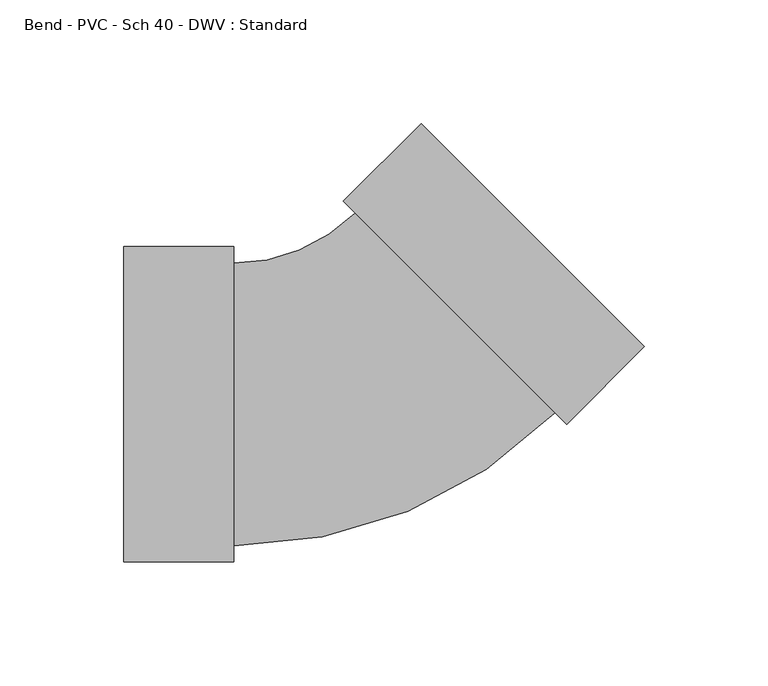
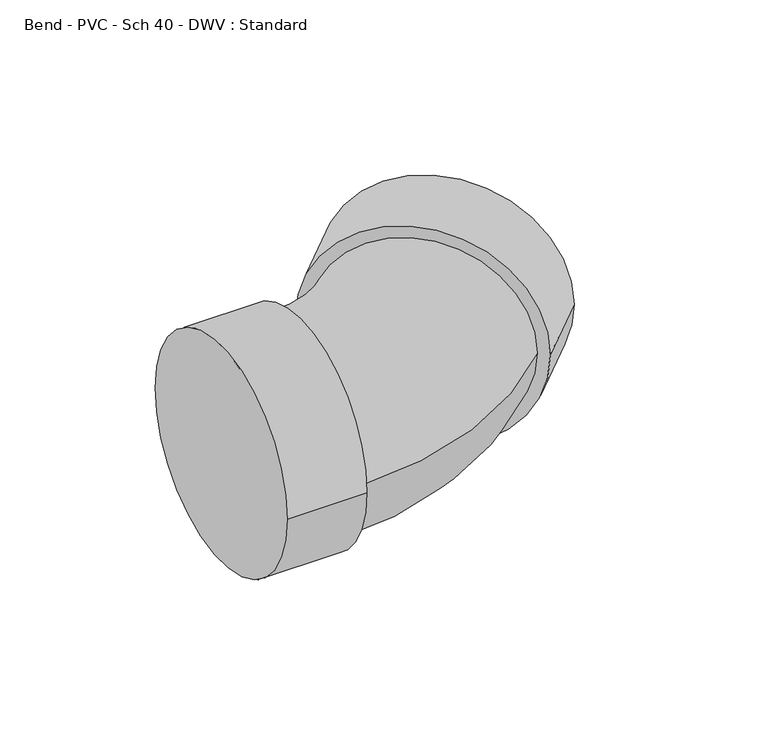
"""IFC4 building model written with IfcOpenShell, lengths in millimetres: pipe fitting geometry, Bend - PVC - Sch 40 - DWV : Standard."""

from ifc_helpers import new_model, si_unit, point, frame, origin, place, context, project, spatial, circle_curve, ellipse_curve, trimmed, source, transform, mapped, element, save
from ifc_brep_helpers import plane_surface, cylinder_surface, revolved_surface, advanced_brep


def bend_pvc_sch_40_dwv_standard_5c4d2726(model_context):
    return source(origin(), model_context, "Body", "AdvancedBrep", [
        advanced_brep(
        [(-96.8502, -63.754, 0.0), (-96.8502, 63.754, 0.0), (-52.4002, -63.754, 0.0), (-52.4002, 63.754, 0.0), (-52.4002, -57.15, 0.0), (-52.4002, 57.15, 0.0), (-3.3586161, 77.4636893, 0.0), (77.4636893, -3.3586155, 0.0), (82.1334225, -8.0283487, 0.0), (-8.0283493, 82.1334225, 0.0), (113.5643188, 23.4025479, 0.0), (23.4025471, 113.564319, 0.0)],
        [
            (0, 1, circle_curve(frame((-96.8502, 0.0, 0.0), z_axis=(-1.0, 0.0, 0.0), x_axis=(0.0, 1.0, 0.0)), 63.754)),
            (1, 0, circle_curve(frame((-96.8502, 0.0, 0.0), z_axis=(-1.0, 0.0, 0.0), x_axis=(0.0, 1.0, 0.0)), 63.754)),
            (2, 3, circle_curve(frame((-52.4002, 0.0, 0.0), z_axis=(1.0, 0.0, 0.0), x_axis=(0.0, 1.0, 0.0)), 63.754)),
            (3, 2, circle_curve(frame((-52.4002, 0.0, 0.0), z_axis=(1.0, 0.0, 0.0), x_axis=(0.0, 1.0, 0.0)), 63.754)),
            (4, 5, circle_curve(frame((-52.4002, 0.0, 0.0), z_axis=(-1.0, 0.0, 0.0), x_axis=(0.0, 1.0, 0.0)), 57.15)),
            (5, 4, circle_curve(frame((-52.4002, 0.0, 0.0), z_axis=(-1.0, 0.0, 0.0), x_axis=(0.0, 1.0, 0.0)), 57.15)),
            (0, 2),
            (3, 1),
            (6, 5, circle_curve(frame((-52.4002, 126.5052729, 0.0), z_axis=(0.0, 0.0, -1.0), x_axis=(0.0, -1.0, 0.0)), 69.3552729)),
            (4, 7, circle_curve(frame((-52.4002, 126.5052729, 0.0), z_axis=(0.0, 0.0, 1.0), x_axis=(0.0, -1.0, 0.0)), 183.6552729)),
            (7, 6, circle_curve(frame((37.0525366, 37.0525369, 0.0), z_axis=(-0.7071067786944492, -0.7071067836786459, 0.0), x_axis=(-0.7071067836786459, 0.7071067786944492, 0.0)), 57.15)),
            (6, 7, circle_curve(frame((37.0525366, 37.0525369, 0.0), z_axis=(-0.7071067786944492, -0.7071067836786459, 0.0), x_axis=(-0.7071067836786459, 0.7071067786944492, 0.0)), 57.15)),
            (8, 9, circle_curve(frame((37.0525366, 37.0525369, 0.0), z_axis=(-0.7071067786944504, -0.7071067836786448, 0.0), x_axis=(-0.7071067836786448, 0.7071067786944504, 0.0)), 63.754)),
            (9, 8, circle_curve(frame((37.0525366, 37.0525369, 0.0), z_axis=(-0.7071067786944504, -0.7071067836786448, 0.0), x_axis=(-0.7071067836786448, 0.7071067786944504, 0.0)), 63.754)),
            (10, 11, circle_curve(frame((68.4834329, 68.4834334, 0.0), z_axis=(0.7071067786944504, 0.7071067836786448, 0.0), x_axis=(-0.7071067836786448, 0.7071067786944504, 0.0)), 63.754)),
            (11, 10, circle_curve(frame((68.4834329, 68.4834334, 0.0), z_axis=(0.7071067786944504, 0.7071067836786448, 0.0), x_axis=(-0.7071067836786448, 0.7071067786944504, 0.0)), 63.754)),
            (8, 10),
            (11, 9),
        ],
        [
            plane_surface(frame((-96.8502, 0.0, 0.0), z_axis=(-1.0, 0.0, 0.0), x_axis=(0.0, 0.0, 1.0))),
            plane_surface(frame((-52.4002, 0.0, 0.0), z_axis=(1.0, 0.0, 0.0), x_axis=(0.0, 0.0, 1.0))),
            cylinder_surface(frame((-96.8502, 0.0, 0.0), z_axis=(-1.0, 0.0, 0.0), x_axis=(0.0, 1.0, 0.0)), 63.754),
            revolved_surface(trimmed(ellipse_curve(frame((-52.4002, 0.0, 0.0), z_axis=(-1.0, 0.0, 0.0), x_axis=(0.0, 1.0, 0.0)), 57.15, 57.15), [point((-52.4002, -57.15, 0.0))], [point((-52.4002, 57.15, 0.0))], True, "CARTESIAN"), (-52.4002, 126.5052729, 0.0), (0.0, 0.0, 1.0)),
            revolved_surface(trimmed(ellipse_curve(frame((-52.4002, 0.0, 0.0), z_axis=(-1.0, 0.0, 0.0), x_axis=(0.0, 1.0, 0.0)), 57.15, 57.15), [point((-52.4002, 57.15, 0.0))], [point((-52.4002, -57.15, 0.0))], True, "CARTESIAN"), (-52.4002, 126.5052729, 0.0), (0.0, 0.0, 1.0)),
            plane_surface(frame((37.0525366, 37.0525369, 0.0), z_axis=(-0.7071067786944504, -0.7071067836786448, 0.0), x_axis=(0.0, 0.0, 1.0))),
            plane_surface(frame((68.4834329, 68.4834334, 0.0), z_axis=(0.7071067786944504, 0.7071067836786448, 0.0), x_axis=(0.0, 0.0, 1.0))),
            cylinder_surface(frame((37.0525366, 37.0525369, 0.0), z_axis=(-0.7071067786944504, -0.7071067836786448, 0.0), x_axis=(-0.7071067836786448, 0.7071067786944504, 0.0)), 63.754),
        ],
        [
            (0, [[1, 2]]),
            (1, [[3, 4], [5, 6]]),
            (2, [[-1, 7, -4, 8]]),
            (2, [[-2, -8, -3, -7]]),
            (3, [[9, -5, 10, 11]]),
            (4, [[-9, 12, -10, -6]]),
            (5, [[13, 14], [-11, -12]]),
            (6, [[15, 16]]),
            (7, [[-13, 17, -16, 18]]),
            (7, [[-14, -18, -15, -17]]),
        ],
    ),
    ])


if __name__ == "__main__":
    model = new_model("IFC4")
    model_context = context("Model", 3, world=origin())
    ifc_project = project(units=[si_unit("LENGTHUNIT", "METRE", prefix="MILLI")], contexts=[model_context])
    site = spatial("IfcSite", under=ifc_project)
    building = spatial("IfcBuilding", under=site)
    placement = place(None, origin())
    bend_pvc_sch_40_dwv_standard_shape = bend_pvc_sch_40_dwv_standard_5c4d2726(model_context)
    element("IfcPipeFitting", 1, ObjectType="Bend - PVC - Sch 40 - DWV : Standard", at=placement, inside=building, context=model_context, shape_type="MappedRepresentation", body=[
        mapped(bend_pvc_sch_40_dwv_standard_shape, transform((0.0, 0.0, 0.0), x_axis=(1.0, 0.0, 0.0), y_axis=(0.0, 1.0, 0.0), z_axis=(0.0, 0.0, 1.0))),
    ])
    save(model, "model.ifc")
